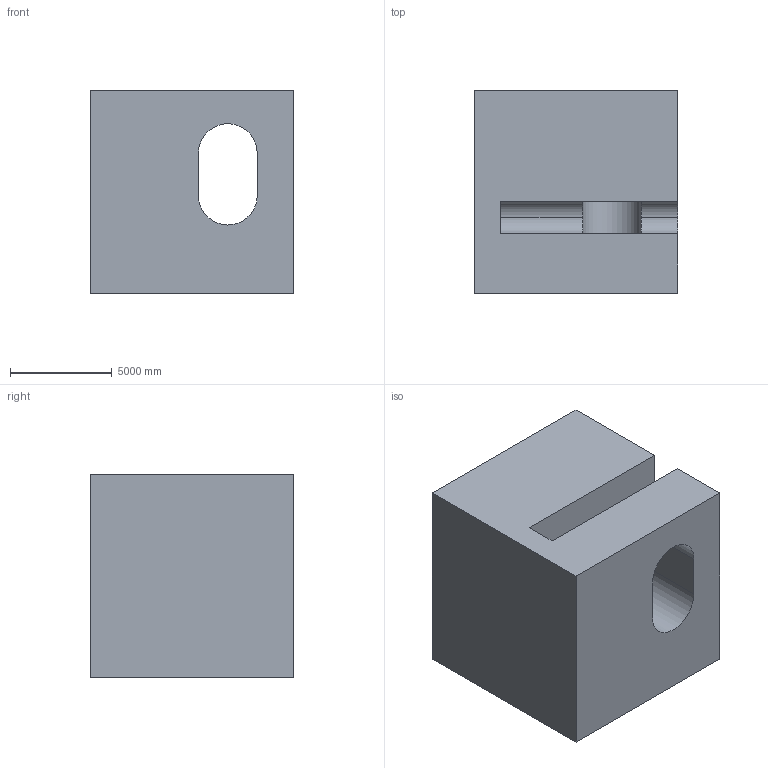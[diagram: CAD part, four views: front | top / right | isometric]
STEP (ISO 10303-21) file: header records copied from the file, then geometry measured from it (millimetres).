
FILE_DESCRIPTION (( 'STEP AP203' ), '1' );
FILE_NAME ('139.STEP', '2022-07-28T13:42:58', ( 'user' ), ( '' ), 'SwSTEP 2.0', 'SolidWorks 2021', '' );
FILE_SCHEMA (( 'CONFIG_CONTROL_DESIGN' ));
Length unit declared in the file: centimetre
Products named in the file (1): 139
Bounding box: 10000 x 10000 x 10000 mm (x, y, z)
Volume: 830902846905.2 mm3; surface area: 746127609.6 mm2
Topology: 1 solids, 1 shells, 20 faces, 60 edges, 40 vertices
Faces by surface type: plane 11, cylinder 9
Entity records: 771 total; most frequent: CARTESIAN_POINT 133, ORIENTED_EDGE 120, DIRECTION 116, EDGE_CURVE 60, VERTEX_POINT 40, AXIS2_PLACEMENT_3D 39, LINE 38, VECTOR 38
